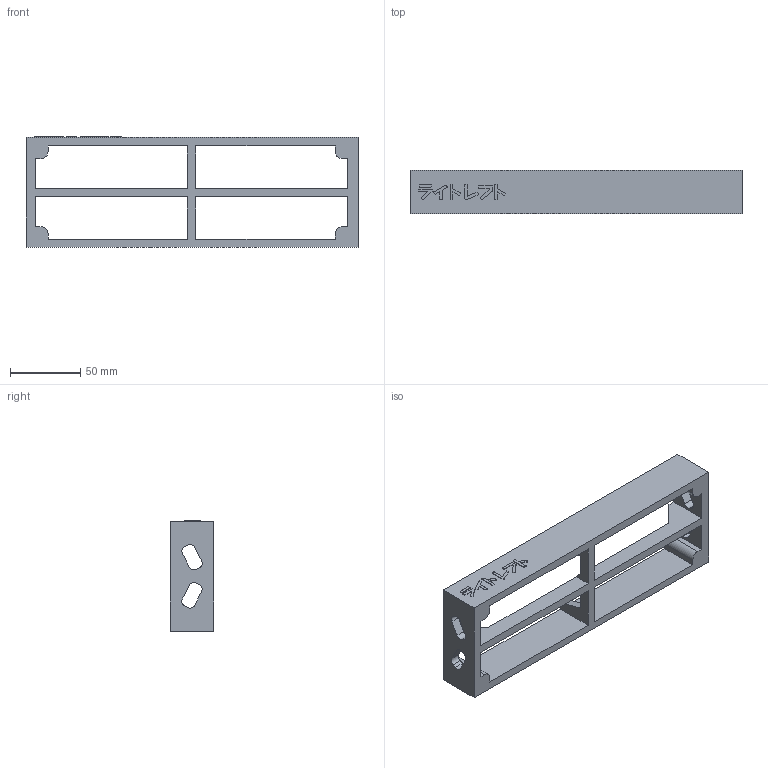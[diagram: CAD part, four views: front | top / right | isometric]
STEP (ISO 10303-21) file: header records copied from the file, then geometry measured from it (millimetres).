
FILE_DESCRIPTION(/* description */ ('STEP AP242 Edition 2','CAx-IF Rec.Pracs.---Representation and Presentation of Product Manufacturing Information (PMI)---4.0---2014-10-13','CAx-IF Rec.Pracs.---3D Tessellated Geometry---0.4---2014-09-14','2;1','CAx-IF Rec.Pracs.---User Defined Attributes---1.5---2016-08-15'),/* implementation_level */ '2;1');
FILE_NAME(/* name */ 'STAND - Part 1',/* time_stamp */ '2026-09-10T07:48:39Z',/* author */ (''),/* organization */ (''),/* preprocessor_version */ 'ST-DEVELOPER v20',/* originating_system */ 'ONSHAPE BY PTC INC, 1.220',/* authorisation */ ' ');
FILE_SCHEMA (('AP242_MANAGED_MODEL_BASED_3D_ENGINEERING_MIM_LF { 1 0 10303 442 3 1 4 }'));
Length unit declared in the file: metre
Products named in the file (1): Part 1
Bounding box: 235.5 x 31 x 78.4 mm (x, y, z)
Volume: 134031.7 mm3; surface area: 55904.6 mm2
Topology: 1 solids, 1 shells, 185 faces, 530 edges, 352 vertices
Faces by surface type: plane 120, cylinder 65
Entity records: 6096 total; most frequent: CARTESIAN_POINT 1068, ORIENTED_EDGE 1060, DIRECTION 1032, EDGE_CURVE 530, LINE 400, VECTOR 400, VERTEX_POINT 352, AXIS2_PLACEMENT_3D 316
